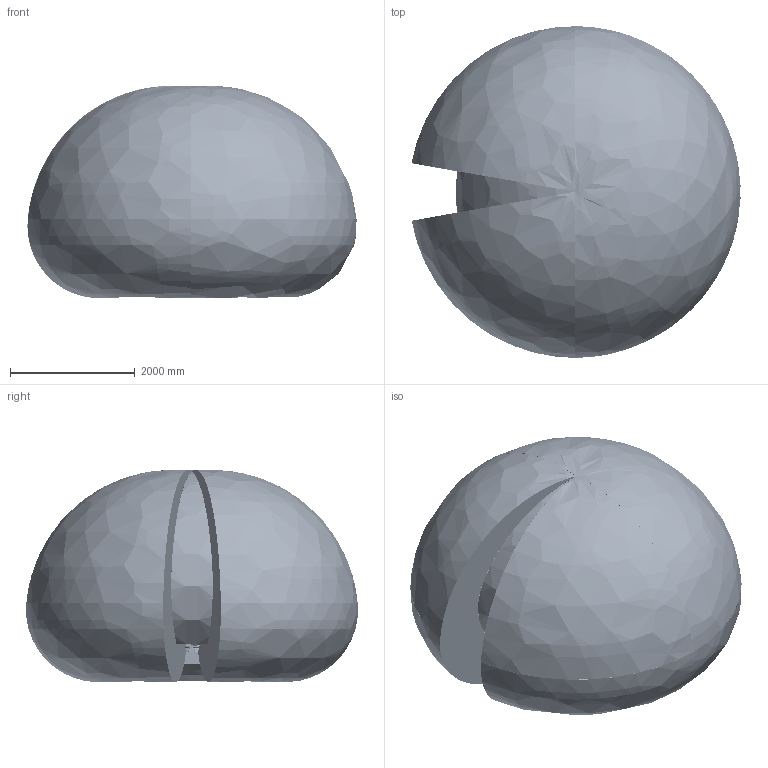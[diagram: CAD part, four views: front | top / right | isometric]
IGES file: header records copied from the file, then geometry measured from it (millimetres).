
Start section: SolidWorks IGES file using analytic representation for surfaces
Global section: file name: C:\Users\seamsto1\Desktop\Lättvikt\IRB6710-LID-SW_175kg-265_OC_00_SW_J\IRB6710-LID-SW_175kg-265_OC_00_IGES_J\IRB6710-LID-SW_175kg-265_OC_00_ASM_CAD.IGS; native system: SolidWorks 2020; preprocessor: SolidWorks 2020; author: SEAMSTO1; date: 230510.130148; units: millimetre
Bounding box: 5274.1 x 5320.19 x 3401.4 mm (x, y, z)
Surface area: 104382269.1 mm2 (no closed solid volume)
Topology: 0 solids, 0 shells, 9654 faces, 152110 edges, 151941 vertices
Faces by surface type: bspline 5671, revolution 3983
